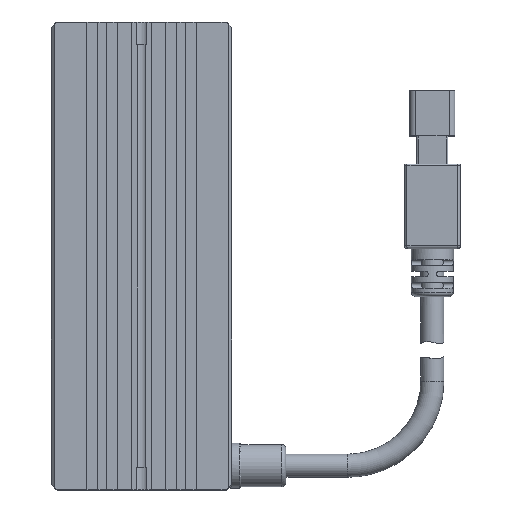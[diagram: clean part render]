
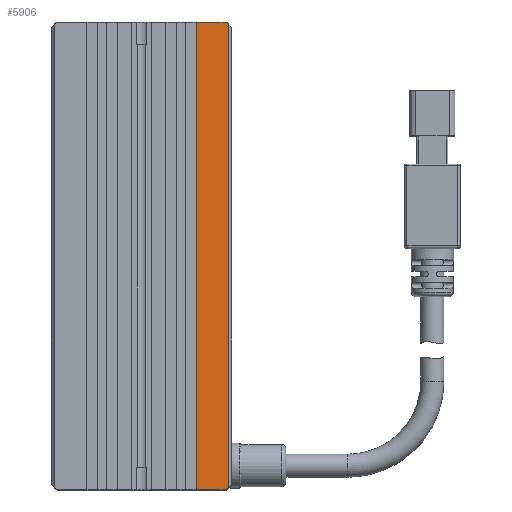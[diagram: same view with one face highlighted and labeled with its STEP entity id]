
A CAD part, top view. The second image highlights one B-rep face of the part: STEP entity #5906.
In plain terms, the highlighted planar face has unit normal (0, 0, 1).
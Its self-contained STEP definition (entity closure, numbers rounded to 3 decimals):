
#203 = VECTOR ( 'NONE', #8383, 1000. ) ;
#885 = VECTOR ( 'NONE', #7575, 1000. ) ;
#941 = DIRECTION ( 'NONE',  ( 1., 0., 0. ) ) ;
#1247 = CARTESIAN_POINT ( 'NONE',  ( 15.5, -41., 12.5 ) ) ;
#1856 = DIRECTION ( 'NONE',  ( 0., 0., -1. ) ) ;
#2014 = LINE ( 'NONE', #4929, #14450 ) ;
#2384 = CARTESIAN_POINT ( 'NONE',  ( 15., -41.5, 12.5 ) ) ;
#2573 = EDGE_CURVE ( 'NONE', #5275, #5576, #12965, .T. ) ;
#3365 = EDGE_CURVE ( 'NONE', #5927, #5234, #2014, .T. ) ;
#3535 = ORIENTED_EDGE ( 'NONE', *, *, #2573, .T. ) ;
#3941 = ORIENTED_EDGE ( 'NONE', *, *, #4402, .F. ) ;
#4029 = ORIENTED_EDGE ( 'NONE', *, *, #4583, .T. ) ;
#4126 = EDGE_LOOP ( 'NONE', ( #3941, #6763, #6497, #3535, #17916, #4029 ) ) ;
#4352 = EDGE_CURVE ( 'NONE', #5576, #7333, #7583, .T. ) ;
#4402 = EDGE_CURVE ( 'NONE', #5927, #10639, #17376, .T. ) ;
#4583 = EDGE_CURVE ( 'NONE', #7333, #10639, #7602, .T. ) ;
#4929 = CARTESIAN_POINT ( 'NONE',  ( 15., 41.5, 12.5 ) ) ;
#4989 = DIRECTION ( 'NONE',  ( -0.707, 0.707, 0. ) ) ;
#5182 = CARTESIAN_POINT ( 'NONE',  ( 9.7, 41.5, 12.5 ) ) ;
#5234 = VERTEX_POINT ( 'NONE', #15845 ) ;
#5275 = VERTEX_POINT ( 'NONE', #5182 ) ;
#5576 = VERTEX_POINT ( 'NONE', #5785 ) ;
#5682 = CARTESIAN_POINT ( 'NONE',  ( 15.5, 41.5, 12.5 ) ) ;
#5785 = CARTESIAN_POINT ( 'NONE',  ( 9.7, -41.5, 12.5 ) ) ;
#5906 = ADVANCED_FACE ( 'NONE', ( #13687 ), #15831, .F. ) ;
#5927 = VERTEX_POINT ( 'NONE', #16991 ) ;
#6497 = ORIENTED_EDGE ( 'NONE', *, *, #17474, .F. ) ;
#6763 = ORIENTED_EDGE ( 'NONE', *, *, #3365, .T. ) ;
#7333 = VERTEX_POINT ( 'NONE', #2384 ) ;
#7575 = DIRECTION ( 'NONE',  ( 1., 0., 0. ) ) ;
#7583 = LINE ( 'NONE', #10737, #8479 ) ;
#7602 = LINE ( 'NONE', #9994, #203 ) ;
#7703 = CARTESIAN_POINT ( 'NONE',  ( 15.5, 41.5, 12.5 ) ) ;
#8383 = DIRECTION ( 'NONE',  ( 0.707, 0.707, 0. ) ) ;
#8479 = VECTOR ( 'NONE', #941, 1000. ) ;
#8948 = CARTESIAN_POINT ( 'NONE',  ( 15.5, 41.5, 12.5 ) ) ;
#9994 = CARTESIAN_POINT ( 'NONE',  ( 16., -40.5, 12.5 ) ) ;
#10639 = VERTEX_POINT ( 'NONE', #1247 ) ;
#10737 = CARTESIAN_POINT ( 'NONE',  ( 15.5, -41.5, 12.5 ) ) ;
#11121 = AXIS2_PLACEMENT_3D ( 'NONE', #8948, #1856, #11638 ) ;
#11638 = DIRECTION ( 'NONE',  ( -1., 0., 0. ) ) ;
#12113 = DIRECTION ( 'NONE',  ( 0., -1., 0. ) ) ;
#12265 = CARTESIAN_POINT ( 'NONE',  ( 9.7, 41.5, 12.5 ) ) ;
#12310 = VECTOR ( 'NONE', #17533, 1000. ) ;
#12965 = LINE ( 'NONE', #12265, #12310 ) ;
#13687 = FACE_OUTER_BOUND ( 'NONE', #4126, .T. ) ;
#13717 = VECTOR ( 'NONE', #12113, 1000. ) ;
#14450 = VECTOR ( 'NONE', #4989, 1000. ) ;
#15831 = PLANE ( 'NONE',  #11121 ) ;
#15845 = CARTESIAN_POINT ( 'NONE',  ( 15., 41.5, 12.5 ) ) ;
#16785 = LINE ( 'NONE', #5682, #885 ) ;
#16991 = CARTESIAN_POINT ( 'NONE',  ( 15.5, 41., 12.5 ) ) ;
#17376 = LINE ( 'NONE', #7703, #13717 ) ;
#17474 = EDGE_CURVE ( 'NONE', #5275, #5234, #16785, .T. ) ;
#17533 = DIRECTION ( 'NONE',  ( 0., -1., 0. ) ) ;
#17916 = ORIENTED_EDGE ( 'NONE', *, *, #4352, .T. ) ;
